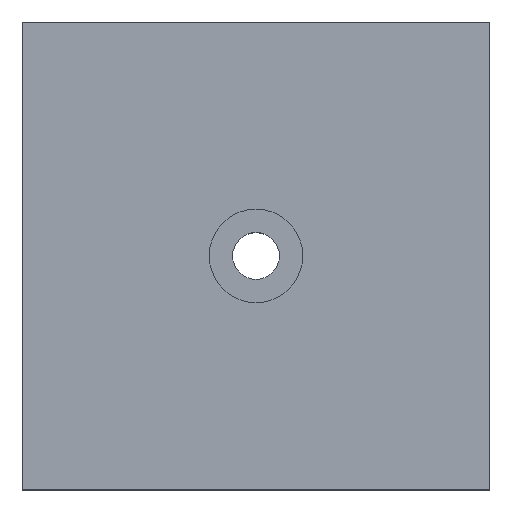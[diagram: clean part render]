
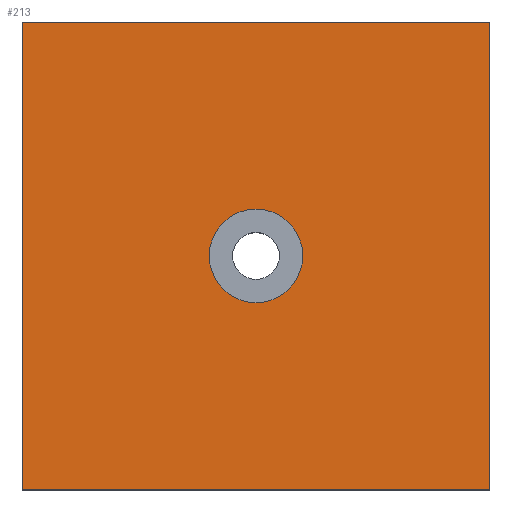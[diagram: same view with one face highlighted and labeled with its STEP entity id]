
A CAD part, top view. The second image highlights one B-rep face of the part: STEP entity #213.
In plain terms, the highlighted planar face has unit normal (0, 0, 1).
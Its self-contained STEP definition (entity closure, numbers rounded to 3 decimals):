
#24 = VERTEX_POINT('',#25);
#25 = CARTESIAN_POINT('',(-30.,-30.,10.));
#32 = PLANE('',#33);
#33 = AXIS2_PLACEMENT_3D('',#34,#35,#36);
#34 = CARTESIAN_POINT('',(-30.,-30.,-10.));
#35 = DIRECTION('',(1.,0.,0.));
#36 = DIRECTION('',(0.,0.,1.));
#44 = PLANE('',#45);
#45 = AXIS2_PLACEMENT_3D('',#46,#47,#48);
#46 = CARTESIAN_POINT('',(-30.,-30.,-10.));
#47 = DIRECTION('',(0.,1.,0.));
#48 = DIRECTION('',(0.,0.,1.));
#85 = VERTEX_POINT('',#86);
#86 = CARTESIAN_POINT('',(-30.,30.,10.));
#100 = PLANE('',#101);
#101 = AXIS2_PLACEMENT_3D('',#102,#103,#104);
#102 = CARTESIAN_POINT('',(-30.,30.,-10.));
#103 = DIRECTION('',(0.,1.,0.));
#104 = DIRECTION('',(0.,0.,1.));
#112 = EDGE_CURVE('',#24,#85,#113,.T.);
#113 = SURFACE_CURVE('',#114,(#118,#125),.PCURVE_S1.);
#114 = LINE('',#115,#116);
#115 = CARTESIAN_POINT('',(-30.,-30.,10.));
#116 = VECTOR('',#117,1.);
#117 = DIRECTION('',(0.,1.,0.));
#118 = PCURVE('',#32,#119);
#119 = DEFINITIONAL_REPRESENTATION('',(#120),#124);
#120 = LINE('',#121,#122);
#121 = CARTESIAN_POINT('',(20.,0.));
#122 = VECTOR('',#123,1.);
#123 = DIRECTION('',(0.,-1.));
#124 = ( GEOMETRIC_REPRESENTATION_CONTEXT(2) 
PARAMETRIC_REPRESENTATION_CONTEXT() REPRESENTATION_CONTEXT('2D SPACE',''
  ) );
#125 = PCURVE('',#126,#131);
#126 = PLANE('',#127);
#127 = AXIS2_PLACEMENT_3D('',#128,#129,#130);
#128 = CARTESIAN_POINT('',(-30.,-30.,10.));
#129 = DIRECTION('',(0.,0.,1.));
#130 = DIRECTION('',(1.,0.,0.));
#131 = DEFINITIONAL_REPRESENTATION('',(#132),#136);
#132 = LINE('',#133,#134);
#133 = CARTESIAN_POINT('',(0.,0.));
#134 = VECTOR('',#135,1.);
#135 = DIRECTION('',(0.,1.));
#136 = ( GEOMETRIC_REPRESENTATION_CONTEXT(2) 
PARAMETRIC_REPRESENTATION_CONTEXT() REPRESENTATION_CONTEXT('2D SPACE',''
  ) );
#165 = EDGE_CURVE('',#24,#166,#168,.T.);
#166 = VERTEX_POINT('',#167);
#167 = CARTESIAN_POINT('',(30.,-30.,10.));
#168 = SURFACE_CURVE('',#169,(#173,#180),.PCURVE_S1.);
#169 = LINE('',#170,#171);
#170 = CARTESIAN_POINT('',(-30.,-30.,10.));
#171 = VECTOR('',#172,1.);
#172 = DIRECTION('',(1.,0.,0.));
#173 = PCURVE('',#44,#174);
#174 = DEFINITIONAL_REPRESENTATION('',(#175),#179);
#175 = LINE('',#176,#177);
#176 = CARTESIAN_POINT('',(20.,0.));
#177 = VECTOR('',#178,1.);
#178 = DIRECTION('',(0.,1.));
#179 = ( GEOMETRIC_REPRESENTATION_CONTEXT(2) 
PARAMETRIC_REPRESENTATION_CONTEXT() REPRESENTATION_CONTEXT('2D SPACE',''
  ) );
#180 = PCURVE('',#126,#181);
#181 = DEFINITIONAL_REPRESENTATION('',(#182),#186);
#182 = LINE('',#183,#184);
#183 = CARTESIAN_POINT('',(0.,0.));
#184 = VECTOR('',#185,1.);
#185 = DIRECTION('',(1.,0.));
#186 = ( GEOMETRIC_REPRESENTATION_CONTEXT(2) 
PARAMETRIC_REPRESENTATION_CONTEXT() REPRESENTATION_CONTEXT('2D SPACE',''
  ) );
#202 = PLANE('',#203);
#203 = AXIS2_PLACEMENT_3D('',#204,#205,#206);
#204 = CARTESIAN_POINT('',(30.,-30.,-10.));
#205 = DIRECTION('',(1.,0.,0.));
#206 = DIRECTION('',(0.,0.,1.));
#213 = ADVANCED_FACE('',(#214,#262),#126,.T.);
#214 = FACE_BOUND('',#215,.T.);
#215 = EDGE_LOOP('',(#216,#217,#218,#241));
#216 = ORIENTED_EDGE('',*,*,#112,.F.);
#217 = ORIENTED_EDGE('',*,*,#165,.T.);
#218 = ORIENTED_EDGE('',*,*,#219,.T.);
#219 = EDGE_CURVE('',#166,#220,#222,.T.);
#220 = VERTEX_POINT('',#221);
#221 = CARTESIAN_POINT('',(30.,30.,10.));
#222 = SURFACE_CURVE('',#223,(#227,#234),.PCURVE_S1.);
#223 = LINE('',#224,#225);
#224 = CARTESIAN_POINT('',(30.,-30.,10.));
#225 = VECTOR('',#226,1.);
#226 = DIRECTION('',(0.,1.,0.));
#227 = PCURVE('',#126,#228);
#228 = DEFINITIONAL_REPRESENTATION('',(#229),#233);
#229 = LINE('',#230,#231);
#230 = CARTESIAN_POINT('',(60.,0.));
#231 = VECTOR('',#232,1.);
#232 = DIRECTION('',(0.,1.));
#233 = ( GEOMETRIC_REPRESENTATION_CONTEXT(2) 
PARAMETRIC_REPRESENTATION_CONTEXT() REPRESENTATION_CONTEXT('2D SPACE',''
  ) );
#234 = PCURVE('',#202,#235);
#235 = DEFINITIONAL_REPRESENTATION('',(#236),#240);
#236 = LINE('',#237,#238);
#237 = CARTESIAN_POINT('',(20.,0.));
#238 = VECTOR('',#239,1.);
#239 = DIRECTION('',(0.,-1.));
#240 = ( GEOMETRIC_REPRESENTATION_CONTEXT(2) 
PARAMETRIC_REPRESENTATION_CONTEXT() REPRESENTATION_CONTEXT('2D SPACE',''
  ) );
#241 = ORIENTED_EDGE('',*,*,#242,.F.);
#242 = EDGE_CURVE('',#85,#220,#243,.T.);
#243 = SURFACE_CURVE('',#244,(#248,#255),.PCURVE_S1.);
#244 = LINE('',#245,#246);
#245 = CARTESIAN_POINT('',(-30.,30.,10.));
#246 = VECTOR('',#247,1.);
#247 = DIRECTION('',(1.,0.,0.));
#248 = PCURVE('',#126,#249);
#249 = DEFINITIONAL_REPRESENTATION('',(#250),#254);
#250 = LINE('',#251,#252);
#251 = CARTESIAN_POINT('',(0.,60.));
#252 = VECTOR('',#253,1.);
#253 = DIRECTION('',(1.,0.));
#254 = ( GEOMETRIC_REPRESENTATION_CONTEXT(2) 
PARAMETRIC_REPRESENTATION_CONTEXT() REPRESENTATION_CONTEXT('2D SPACE',''
  ) );
#255 = PCURVE('',#100,#256);
#256 = DEFINITIONAL_REPRESENTATION('',(#257),#261);
#257 = LINE('',#258,#259);
#258 = CARTESIAN_POINT('',(20.,0.));
#259 = VECTOR('',#260,1.);
#260 = DIRECTION('',(0.,1.));
#261 = ( GEOMETRIC_REPRESENTATION_CONTEXT(2) 
PARAMETRIC_REPRESENTATION_CONTEXT() REPRESENTATION_CONTEXT('2D SPACE',''
  ) );
#262 = FACE_BOUND('',#263,.T.);
#263 = EDGE_LOOP('',(#264));
#264 = ORIENTED_EDGE('',*,*,#265,.T.);
#265 = EDGE_CURVE('',#266,#266,#268,.T.);
#266 = VERTEX_POINT('',#267);
#267 = CARTESIAN_POINT('',(-6.,0.,10.));
#268 = SURFACE_CURVE('',#269,(#274,#285),.PCURVE_S1.);
#269 = CIRCLE('',#270,6.);
#270 = AXIS2_PLACEMENT_3D('',#271,#272,#273);
#271 = CARTESIAN_POINT('',(0.,0.,10.));
#272 = DIRECTION('',(0.,0.,-1.));
#273 = DIRECTION('',(-1.,0.,0.));
#274 = PCURVE('',#126,#275);
#275 = DEFINITIONAL_REPRESENTATION('',(#276),#284);
#276 = ( BOUNDED_CURVE() B_SPLINE_CURVE(2,(#277,#278,#279,#280,#281,#282
,#283),.UNSPECIFIED.,.T.,.F.) B_SPLINE_CURVE_WITH_KNOTS((1,2,2,2,2,1),(
    -2.094,0.,2.094,4.189,6.283,
8.378),.UNSPECIFIED.) CURVE() GEOMETRIC_REPRESENTATION_ITEM() 
RATIONAL_B_SPLINE_CURVE((1.,0.5,1.,0.5,1.,0.5,1.)) REPRESENTATION_ITEM(
  '') );
#277 = CARTESIAN_POINT('',(24.,30.));
#278 = CARTESIAN_POINT('',(24.,40.392));
#279 = CARTESIAN_POINT('',(33.,35.196));
#280 = CARTESIAN_POINT('',(42.,30.));
#281 = CARTESIAN_POINT('',(33.,24.804));
#282 = CARTESIAN_POINT('',(24.,19.608));
#283 = CARTESIAN_POINT('',(24.,30.));
#284 = ( GEOMETRIC_REPRESENTATION_CONTEXT(2) 
PARAMETRIC_REPRESENTATION_CONTEXT() REPRESENTATION_CONTEXT('2D SPACE',''
  ) );
#285 = PCURVE('',#286,#291);
#286 = CYLINDRICAL_SURFACE('',#287,6.);
#287 = AXIS2_PLACEMENT_3D('',#288,#289,#290);
#288 = CARTESIAN_POINT('',(0.,0.,10.));
#289 = DIRECTION('',(0.,0.,-1.));
#290 = DIRECTION('',(-1.,0.,0.));
#291 = DEFINITIONAL_REPRESENTATION('',(#292),#296);
#292 = LINE('',#293,#294);
#293 = CARTESIAN_POINT('',(0.,0.));
#294 = VECTOR('',#295,1.);
#295 = DIRECTION('',(1.,0.));
#296 = ( GEOMETRIC_REPRESENTATION_CONTEXT(2) 
PARAMETRIC_REPRESENTATION_CONTEXT() REPRESENTATION_CONTEXT('2D SPACE',''
  ) );
